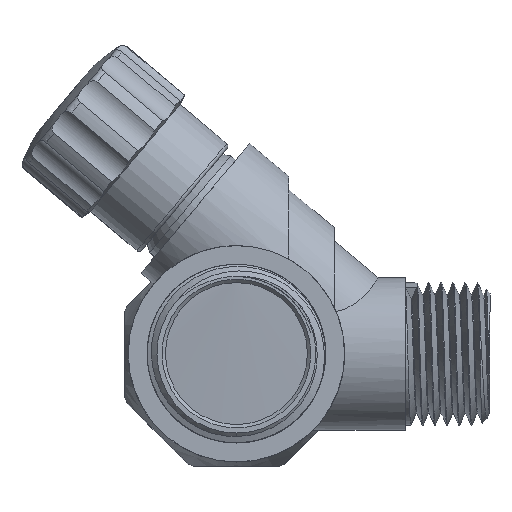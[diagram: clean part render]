
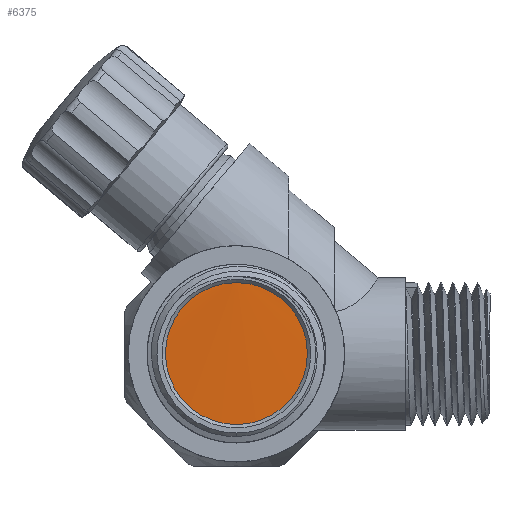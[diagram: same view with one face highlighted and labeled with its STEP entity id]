
A CAD part, top view. The second image highlights one B-rep face of the part: STEP entity #6375.
In plain terms, the highlighted cylindrical face has radius 11.4 mm (diameter 22.8 mm), a full revolution.
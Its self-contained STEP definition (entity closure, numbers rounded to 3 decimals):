
#314=FACE_OUTER_BOUND('',#679,.T.);
#679=EDGE_LOOP('',(#4166,#4167,#4168));
#1305=B_SPLINE_CURVE_WITH_KNOTS('',3,(#8988,#8989,#8990,#8991,#8992,#8993,
#8994,#8995,#8996,#8997,#8998,#8999,#9000,#9001,#9002,#9003,#9004),
 .UNSPECIFIED.,.F.,.F.,(4,1,1,1,1,1,1,1,1,1,1,1,1,1,4),(9.425,
9.55,10.043,10.536,11.029,11.522,
12.015,12.508,13.001,13.494,13.987,
14.48,14.973,15.466,15.708),
 .UNSPECIFIED.);
#1659=LINE('',#8985,#2050);
#1660=LINE('',#8987,#2051);
#2050=VECTOR('',#7362,11.4);
#2051=VECTOR('',#7363,11.4);
#2445=VERTEX_POINT('',#8983);
#2446=VERTEX_POINT('',#8984);
#2447=VERTEX_POINT('',#8986);
#3136=EDGE_CURVE('',#2445,#2446,#1659,.T.);
#3137=EDGE_CURVE('',#2447,#2445,#1660,.T.);
#3138=EDGE_CURVE('',#2447,#2446,#1305,.T.);
#4166=ORIENTED_EDGE('',*,*,#3136,.F.);
#4167=ORIENTED_EDGE('',*,*,#3137,.F.);
#4168=ORIENTED_EDGE('',*,*,#3138,.T.);
#6219=CYLINDRICAL_SURFACE('',#6761,11.4);
#6375=ADVANCED_FACE('',(#314),#6219,.T.);
#6761=AXIS2_PLACEMENT_3D('',#8982,#7360,#7361);
#7360=DIRECTION('center_axis',(0.,0.,-1.));
#7361=DIRECTION('ref_axis',(0.,-1.,0.));
#7362=DIRECTION('',(0.,0.,-1.));
#7363=DIRECTION('',(0.,0.,-1.));
#8982=CARTESIAN_POINT('Origin',(0.,0.,10.85));
#8983=CARTESIAN_POINT('',(0.,11.4,8.1));
#8984=CARTESIAN_POINT('',(0.,11.4,6.4));
#8985=CARTESIAN_POINT('',(0.,11.4,10.85));
#8986=CARTESIAN_POINT('',(0.,11.4,8.2));
#8987=CARTESIAN_POINT('',(0.,11.4,10.85));
#8988=CARTESIAN_POINT('Ctrl Pts',(0.,11.4,
8.2));
#8989=CARTESIAN_POINT('Ctrl Pts',(0.477,11.4,8.188));
#8990=CARTESIAN_POINT('Ctrl Pts',(2.827,11.255,8.129));
#8991=CARTESIAN_POINT('Ctrl Pts',(6.884,9.673,8.023));
#8992=CARTESIAN_POINT('Ctrl Pts',(10.642,5.263,7.882));
#8993=CARTESIAN_POINT('Ctrl Pts',(11.865,-0.4,7.74));
#8994=CARTESIAN_POINT('Ctrl Pts',(10.263,-5.968,7.599));
#8995=CARTESIAN_POINT('Ctrl Pts',(6.217,-10.114,7.458));
#8996=CARTESIAN_POINT('Ctrl Pts',(0.69,-11.852,7.317));
#8997=CARTESIAN_POINT('Ctrl Pts',(-5.001,-10.767,7.175));
#8998=CARTESIAN_POINT('Ctrl Pts',(-9.501,-7.119,7.034));
#8999=CARTESIAN_POINT('Ctrl Pts',(-11.739,-1.775,6.893));
#9000=CARTESIAN_POINT('Ctrl Pts',(-11.181,3.992,6.752));
#9001=CARTESIAN_POINT('Ctrl Pts',(-7.96,8.808,6.611));
#9002=CARTESIAN_POINT('Ctrl Pts',(-3.713,11.065,6.493));
#9003=CARTESIAN_POINT('Ctrl Pts',(-0.919,11.399,6.423));
#9004=CARTESIAN_POINT('Ctrl Pts',(0.,11.399,
6.4));
